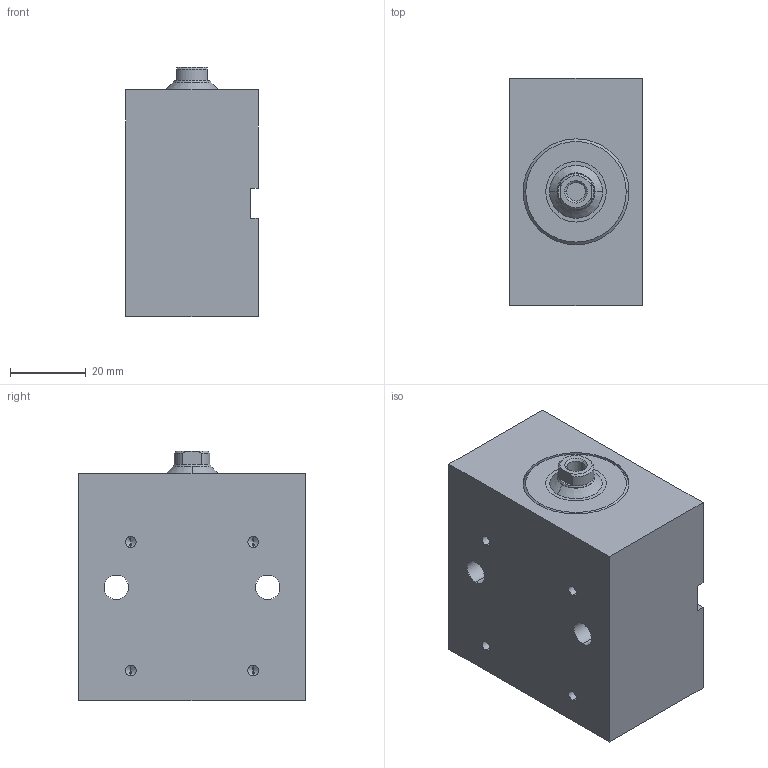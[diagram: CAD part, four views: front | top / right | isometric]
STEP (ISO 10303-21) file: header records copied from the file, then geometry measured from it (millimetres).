
FILE_DESCRIPTION (( 'STEP AP203' ), '1' );
FILE_NAME ('BZ_500.16_10.33.201.020.N30__DH_0_.STEP', '2022-05-10T11:23:27', ( '' ), ( '' ), 'SwSTEP 2.0', 'SolidWorks 2020', '' );
FILE_SCHEMA (( 'CONFIG_CONTROL_DESIGN' ));
Length unit declared in the file: millimetre
Products named in the file (7): _Gehaeuse f. BZ500.16_10.33.201.20.N1.m (m = Nut spiegelbildlich30)00(130frei133000))6^BZ_500.16_10.33.201.020.N30__DH_0_(2)_BZ_500.16_10.33.201.020.N30__DH_0_; _Kolbenstange komplett f. BZ_RZ_FZ.16_10.xx.201.20(0_11 1 6 1 0 0 6 12 0 0 0)0^BZ_500.16_10.33.201.020.N30__DH_0_(2)_BZ_500.16_10.33.201.020.N30__DH_0_; _Dichtungssatz f. BZ_RZ_FZ.16_10.xx.201.20 Artikelnr._ 013286(0)^BZ_500.16_10.33.201.020.N30__DH_0_(2)_BZ_500.16_10.33.201.020.N30__DH_0_; _O-Ring 8x1.5 - Art. 020459^BZ_500.16_10.33.201.020.N30__DH_0_(2)_BZ_500.16_10.33.201.020.N30__DH_0_; _Verschraubung komplett mit Dichtung f. BZ_RZ_FZ.16_10.201, Art.-Nr._ 042485(201)^BZ_500.16_10.33.201.020.N30__DH_0_(2)_BZ_500.16_10.33.201.020.N30__DH_0_; BZ_500.16_10.33.201.020.N30__DH_0_(2)^BZ_500.16_10.33.201.020.N30__DH_0_; BZ_500.16_10.33.201.020.N30__DH_0_
Assembly tree (7 placements, depth 3):
  BZ_500.16_10.33.201.020.N30__DH_0_
    BZ_500.16_10.33.201.020.N30__DH_0_(2)^BZ_500.16_10.33.201.020.N30__DH_0_
      _Gehaeuse f. BZ500.16_10.33.201.20.N1.m (m = Nut spiegelbildlich30)00(130frei133000))6^BZ_500.16_10.33.201.020.N30__DH_0_(2)_BZ_500.16_10.33.201.020.N30__DH_0_
      _Verschraubung komplett mit Dichtung f. BZ_RZ_FZ.16_10.201, Art.-Nr._ 042485(201)^BZ_500.16_10.33.201.020.N30__DH_0_(2)_BZ_500.16_10.33.201.020.N30__DH_0_
      _Dichtungssatz f. BZ_RZ_FZ.16_10.xx.201.20 Artikelnr._ 013286(0)^BZ_500.16_10.33.201.020.N30__DH_0_(2)_BZ_500.16_10.33.201.020.N30__DH_0_
      _Kolbenstange komplett f. BZ_RZ_FZ.16_10.xx.201.20(0_11 1 6 1 0 0 6 12 0 0 0)0^BZ_500.16_10.33.201.020.N30__DH_0_(2)_BZ_500.16_10.33.201.020.N30__DH_0_
      _O-Ring 8x1.5 - Art. 020459^BZ_500.16_10.33.201.020.N30__DH_0_(2)_BZ_500.16_10.33.201.020.N30__DH_0_  x2
Bounding box: 35 x 60 x 66 mm (x, y, z)
Volume: 119472.4 mm3; surface area: 28179.5 mm2
Topology: 6 solids, 6 shells, 120 faces, 267 edges, 164 vertices
Faces by surface type: cylinder 52, plane 38, cone 18, torus 12
Entity records: 4004 total; most frequent: CARTESIAN_POINT 660, DIRECTION 605, ORIENTED_EDGE 486, AXIS2_PLACEMENT_3D 251, EDGE_CURVE 243, VERTEX_POINT 154, EDGE_LOOP 139, CIRCLE 128
